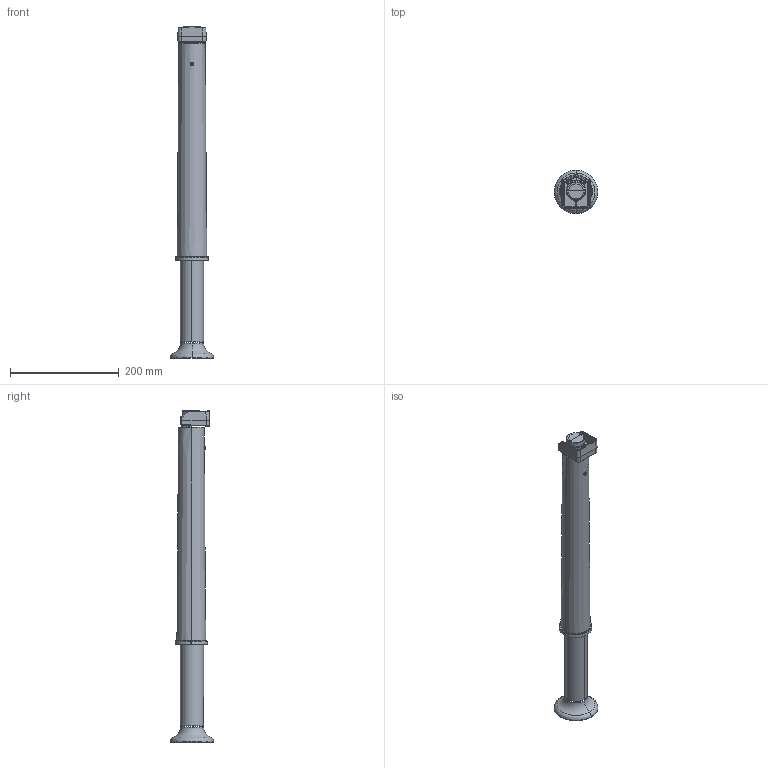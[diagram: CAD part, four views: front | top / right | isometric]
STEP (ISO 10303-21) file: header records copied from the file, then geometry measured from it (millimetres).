
FILE_DESCRIPTION (( 'STEP AP203' ), '1' );
FILE_NAME ('E296008.STEP', '2025-04-02T14:47:21', ( '' ), ( '' ), 'SwSTEP 2.0', 'SolidWorks 2023', '' );
FILE_SCHEMA (( 'CONFIG_CONTROL_DESIGN' ));
Length unit declared in the file: millimetre
Products named in the file (1): E296008
Bounding box: 80 x 80 x 609.4 mm (x, y, z)
Surface area: 199708.8 mm2 (no closed solid volume)
Topology: 0 solids, 12 shells, 333 faces, 1303 edges, 933 vertices
Faces by surface type: cylinder 124, plane 83, bspline 69, cone 39, torus 18
Entity records: 22242 total; most frequent: CARTESIAN_POINT 12877, ORIENTED_EDGE 1984, DIRECTION 1539, EDGE_CURVE 1299, VERTEX_POINT 933, AXIS2_PLACEMENT_3D 588, B_SPLINE_CURVE_WITH_KNOTS 560, VECTOR 363
